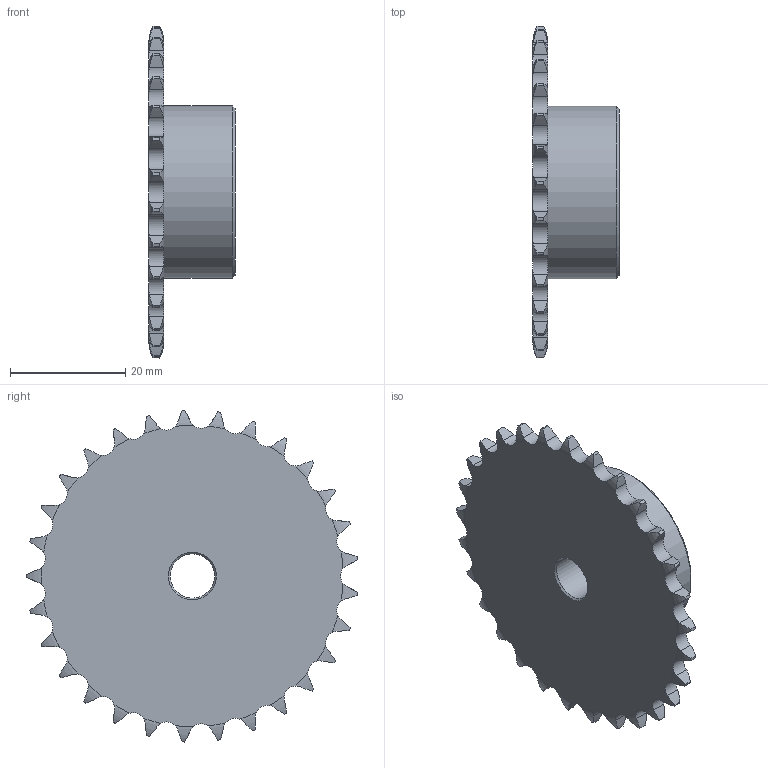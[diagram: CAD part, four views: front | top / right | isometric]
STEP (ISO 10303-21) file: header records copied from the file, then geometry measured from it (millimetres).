
FILE_DESCRIPTION(/* description */ (''),/* implementation_level */ '2;1');
FILE_NAME(/* name */ 'C:\Users\stagistaCAD\Desktop\10106029.stp',/* time_stamp */ '2018-06-21T15:14:31+02:00',/* author */ ('stagistacad'),/* organization */ (''),/* preprocessor_version */ 'ST-DEVELOPER v15.6',/* originating_system */ 'Autodesk Inventor 2015',/* authorisation */ '');
FILE_SCHEMA (('AUTOMOTIVE_DESIGN { 1 0 10303 214 3 1 1 }'));
Length unit declared in the file: millimetre
Products named in the file (1): 10106029
Bounding box: 15 x 57.65 x 57.74 mm (x, y, z)
Volume: 13903.3 mm3; surface area: 6542.4 mm2
Topology: 1 solids, 1 shells, 182 faces, 534 edges, 355 vertices
Faces by surface type: cylinder 118, torus 58, plane 3, cone 3
Full cylindrical faces by diameter (mm): 7.7 x1, 30 x1
Entity records: 6694 total; most frequent: CARTESIAN_POINT 2127, ORIENTED_EDGE 1058, DIRECTION 844, EDGE_CURVE 529, AXIS2_PLACEMENT_3D 364, VERTEX_POINT 355, B_SPLINE_CURVE_WITH_KNOTS 232, EDGE_LOOP 190
